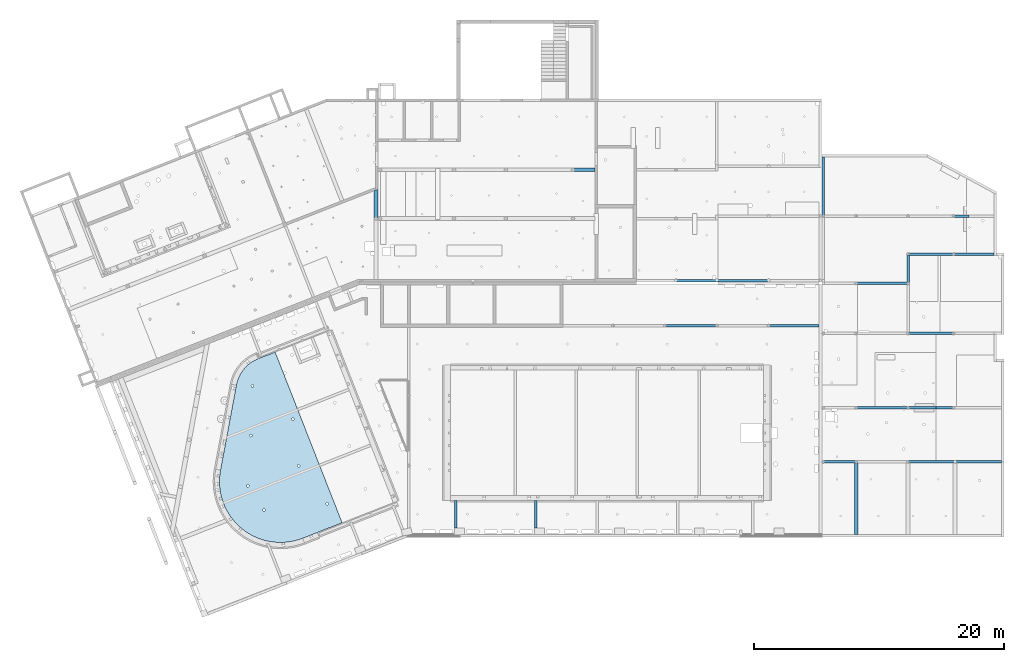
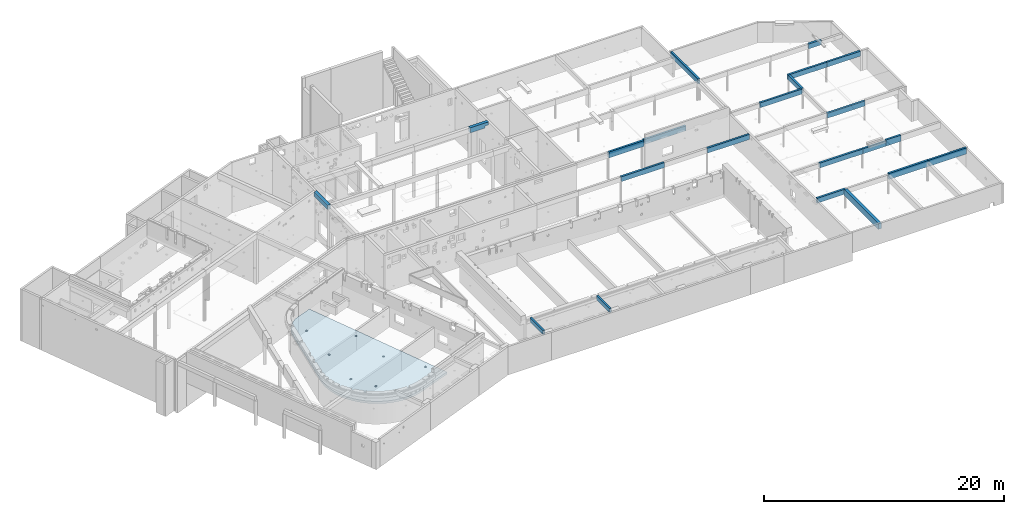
# One storey, part 6 of 28: 22 beams, 1 slab, 8 openings.
"""IFC2X3 building model written with IfcOpenShell, lengths in metres."""

from ifc_helpers import new_model, entity, si_unit, converted_unit, direction, frame, origin, origin_with_axes, place, context, subcontext, project, spatial, polyline, outline, extrude, faceted_brep, material, element, save


model = new_model("IFC2X3")

# Units and contexts
model_context = context("Model", 3, precision=1e-05, world=origin(), true_north=direction((-0.407059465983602, -0.913401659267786)))
body_context = subcontext(model_context, "Body", "Model", "MODEL_VIEW")
ifc_project = project(units=[si_unit("LENGTHUNIT", "METRE"), si_unit("AREAUNIT", "SQUARE_METRE"), si_unit("VOLUMEUNIT", "CUBIC_METRE"), si_unit("MASSUNIT", "GRAM", prefix="KILO"), converted_unit("PLANEANGLEUNIT", "DEGREE", entity("IfcPlaneAngleMeasure", 0.0174532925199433), si_unit("PLANEANGLEUNIT", "RADIAN"), dimensions=[0, 0, 0, 0, 0, 0, 0])], contexts=[model_context])

# Site, buildings, storey
site_placement = place(None, origin())
site = spatial("IfcSite", under=ifc_project, at=site_placement, Name="Site", CompositionType="ELEMENT")
building_1_placement = place(site_placement, origin())
building_1 = spatial("IfcBuilding", under=site, at=building_1_placement, Name="Site", CompositionType="COMPLEX")
building_2_placement = place(building_1_placement, origin())
building_2 = spatial("IfcBuilding", under=building_1, at=building_2_placement, Name="Bâtiments", CompositionType="ELEMENT")
storey_placement = place(building_2_placement, frame((0.0, 0.0, -5.3)))
storey = spatial("IfcBuildingStorey", under=building_2, at=storey_placement, Name="SOUS-SOL", CompositionType="ELEMENT", Elevation=-5.3)

# Beam
ifc_material_1 = material(Name="Béton")
beam_1_placement = place(storey_placement, frame((27.5627490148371, -0.168892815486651, 4.71)))
element("IfcBeam", 1, at=beam_1_placement, inside=storey, material=ifc_material_1, Name="Po 011", context=body_context, shape_type="Brep", body=[
    faceted_brep([(0.300010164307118, 2.35732778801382, 0.0), (0.299999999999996, 0.0, 0.0), (0.299999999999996, 0.0, 0.45), (0.300010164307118, 2.35732778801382, 0.45), (0.0, 6.47089122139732e-07, 0.0), (0.0, 6.47089122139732e-07, 0.45), (9.65677928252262e-06, 2.23962149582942, 0.0), (9.65677928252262e-06, 2.23962149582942, 0.45)], [[[0, 1, 2, 3]], [[1, 4, 5, 2]], [[4, 6, 7, 5]], [[6, 0, 3, 7]], [[7, 3, 2, 5]], [[0, 6, 4, 1]]], orient=[[False], [False], [False], [False], [False], [False]]),
])

# Beam, opening
ifc_material_2 = material(Name="Béton")
beam_2_placement = place(storey_placement, frame((43.4923225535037, 3.60173262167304, 4.68)))
beam_2 = element("IfcBeam", 2, at=beam_2_placement, inside=storey, material=ifc_material_2, Name="Po 015", context=body_context, shape_type="Brep", body=[
    faceted_brep([(7.27595761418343e-15, 0.300000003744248, 0.0), (1.7503231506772, 0.3, 0.0), (1.7503231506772, 0.3, 0.5), (7.27595761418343e-15, 0.300000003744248, 0.5), (1.7503231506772, 0.0, 0.0), (1.7503231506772, 0.0, 0.5), (1.96339417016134e-07, 3.74424826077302e-09, 0.0), (1.96339417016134e-07, 3.74424826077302e-09, 0.5)], [[[0, 1, 2, 3]], [[1, 4, 5, 2]], [[4, 6, 7, 5]], [[6, 0, 3, 7]], [[7, 3, 2, 5]], [[0, 6, 4, 1]]], orient=[[False], [False], [False], [False], [False], [False]]),
])
opening_1_placement = place(beam_2_placement, frame((1.40032315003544, 7.48715137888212e-10, 0.0), z_axis=(0.0, 1.0, 0.0), x_axis=(0.0, 0.0, 1.0)))
element("IfcOpeningElement", 3, at=opening_1_placement, cuts=beam_2, Name="EL-022", ObjectType="Opening", context=body_context, shape_type="SweptSolid", body=[
    extrude(outline(polyline([(0.0, 0.35), (0.2, 0.35), (0.2, 0.0), (0.0, 0.0), (0.0, 0.35)])), origin_with_axes(), (0.0, 0.0, 1.0), 0.3),
])

# Beams
ifc_material_3 = material(Name="Béton")
beam_3_placement = place(storey_placement, frame((50.8626498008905, -8.83387390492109, 4.66)))
element("IfcBeam", 4, at=beam_3_placement, inside=storey, material=ifc_material_3, Name="Po 042", context=body_context, shape_type="Brep", body=[
    faceted_brep([(7.27595761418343e-15, 0.199999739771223, 0.0), (4.15000233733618, 0.200000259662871, 0.0), (4.15000233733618, 0.200000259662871, 0.5), (7.27595761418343e-15, 0.199999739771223, 0.5), (4.15000236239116, 5.19891063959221e-07, 0.0), (4.15000236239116, 5.19891063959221e-07, 0.5), (4.69975175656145e-06, 0.0, 0.0), (4.69975175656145e-06, 0.0, 0.5)], [[[0, 1, 2, 3]], [[1, 4, 5, 2]], [[4, 6, 7, 5]], [[6, 0, 3, 7]], [[7, 3, 2, 5]], [[0, 6, 4, 1]]], orient=[[False], [False], [False], [False], [False], [False]]),
])
ifc_material_4 = material(Name="Béton")
beam_4_placement = place(storey_placement, frame((59.1626461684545, -8.83393478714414, 4.66)))
element("IfcBeam", 5, at=beam_4_placement, inside=storey, material=ifc_material_4, Name="Po 044", context=body_context, shape_type="Brep", body=[
    faceted_brep([(0.0, 6.08822334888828e-05, 0.0), (5.96977220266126e-06, 0.200060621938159, 0.0), (5.96977220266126e-06, 0.200060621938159, 0.5), (0.0, 6.08822334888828e-05, 0.5), (4.05070967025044, 0.199999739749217, 0.0), (4.05070967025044, 0.199999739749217, 0.5), (4.05070666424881, 1.81898940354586e-15, 0.0), (4.05070666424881, 1.81898940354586e-15, 0.5)], [[[0, 1, 2, 3]], [[1, 4, 5, 2]], [[4, 6, 7, 5]], [[6, 0, 3, 7]], [[3, 2, 5, 7]], [[0, 6, 4, 1]]], orient=[[False], [False], [False], [False], [False], [False]]),
])
ifc_material_5 = material(Name="Béton")
beam_5_placement = place(storey_placement, frame((63.433390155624, 0.151721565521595, 4.76)))
element("IfcBeam", 6, at=beam_5_placement, inside=storey, material=ifc_material_5, Name="Po 060", context=body_context, shape_type="Brep", body=[
    faceted_brep([(0.0, 0.0, 0.0), (0.0, 4.62209675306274, 0.0), (0.0, 4.62209675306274, 0.5), (0.0, 0.0, 0.5), (0.19999996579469, 4.62209675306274, 0.0), (0.19999996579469, 4.62209675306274, 0.5), (0.19999996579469, 5.10935807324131e-06, 0.0), (0.19999996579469, 5.10935807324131e-06, 0.5)], [[[0, 1, 2, 3]], [[1, 4, 5, 2]], [[4, 6, 7, 5]], [[6, 0, 3, 7]], [[7, 3, 2, 5]], [[0, 6, 4, 1]]], orient=[[False], [False], [False], [False], [False], [False]]),
])
ifc_material_6 = material(Name="Béton")
beam_6_placement = place(storey_placement, frame((73.9828281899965, -3.0954855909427, 4.76)))
element("IfcBeam", 7, at=beam_6_placement, inside=storey, material=ifc_material_6, Name="Po 033", context=body_context, shape_type="Brep", body=[
    faceted_brep([(0.0, 0.199999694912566, 0.0), (3.23042241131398, 0.200143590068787, 0.0), (3.23042241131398, 0.200143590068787, 0.5), (0.0, 0.199999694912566, 0.5), (3.23043132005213, 0.00014389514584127, 0.0), (3.23043132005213, 0.00014389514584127, 0.5), (9.1417789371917e-06, 0.0, 0.0), (9.1417789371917e-06, 0.0, 0.5)], [[[0, 1, 2, 3]], [[1, 4, 5, 2]], [[4, 6, 7, 5]], [[6, 0, 3, 7]], [[7, 3, 2, 5]], [[0, 6, 4, 1]]], orient=[[False], [False], [False], [False], [False], [False]]),
])
ifc_material_7 = material(Name="Béton")
beam_7_placement = place(storey_placement, frame((63.4333864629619, -19.7400776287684, 4.68)))
element("IfcBeam", 8, at=beam_7_placement, inside=storey, material=ifc_material_7, Name="Po 053", context=body_context, shape_type="Brep", body=[
    faceted_brep([(4.40334252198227e-06, 0.200060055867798, 0.0), (2.73956097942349, 0.199999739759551, 0.0), (2.73956097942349, 0.199999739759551, 0.5), (4.40334252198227e-06, 0.200060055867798, 0.5), (2.73955836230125, 0.199965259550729, 0.0), (2.73955836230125, 0.199965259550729, 0.5), (2.73955657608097, 0.0, 0.0), (2.73955657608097, 0.0, 0.5), (0.0, 6.0316108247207e-05, 0.0), (0.0, 6.0316108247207e-05, 0.5)], [[[0, 1, 2, 3]], [[1, 4, 5, 2]], [[4, 6, 7, 5]], [[6, 8, 9, 7]], [[8, 0, 3, 9]], [[9, 3, 2, 5, 7]], [[0, 8, 6, 4, 1]]], orient=[[False], [False], [False], [False], [False], [False], [False]]),
])
ifc_material_8 = material(Name="Béton")
beam_8_placement = place(storey_placement, frame((66.0229478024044, -25.4449283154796, 4.58)))
element("IfcBeam", 9, at=beam_8_placement, inside=storey, material=ifc_material_8, Name="Po 061", context=body_context, shape_type="Brep", body=[
    faceted_brep([(0.300000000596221, 5.7048472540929, 0.0), (0.30025536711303, 0.0, 0.0), (0.30025536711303, 0.0, 0.6), (0.300000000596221, 5.7048472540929, 0.6), (0.000255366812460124, 4.25134203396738e-11, 0.0), (0.000255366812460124, 4.25134203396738e-11, 0.6), (0.0, 5.70485385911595, 0.0), (0.0, 5.70485385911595, 0.6)], [[[0, 1, 2, 3]], [[1, 4, 5, 2]], [[4, 6, 7, 5]], [[6, 0, 3, 7]], [[7, 3, 2, 5]], [[0, 6, 4, 1]]], orient=[[False], [False], [False], [False], [False], [False]]),
])
ifc_material_9 = material(Name="Béton")
beam_9_placement = place(storey_placement, frame((51.7387053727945, -5.21894494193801, 4.58)))
element("IfcBeam", 10, at=beam_9_placement, inside=storey, material=ifc_material_9, Name="Po 035", context=body_context, shape_type="Brep", body=[
    faceted_brep([(0.0, 0.200000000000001, 0.0), (3.3737714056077, 0.200000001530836, 0.0), (3.3737714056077, 0.200000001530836, 0.6), (0.0, 0.200000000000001, 0.6), (3.37377121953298, 1.53083510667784e-09, 0.0), (3.37377121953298, 1.53083510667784e-09, 0.6), (9.07457433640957e-11, 9.09494701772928e-16, 0.0), (9.07457433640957e-11, 9.09494701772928e-16, 0.6)], [[[0, 1, 2, 3]], [[1, 4, 5, 2]], [[4, 6, 7, 5]], [[6, 0, 3, 7]], [[7, 3, 2, 5]], [[0, 6, 4, 1]]], orient=[[False], [False], [False], [False], [False], [False]]),
])
ifc_material_10 = material(Name="Béton")
beam_10_placement = place(storey_placement, frame((55.1124812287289, -5.21895147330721, 4.76)))
element("IfcBeam", 11, at=beam_10_placement, inside=storey, material=ifc_material_10, Name="Po 036", context=body_context, shape_type="Brep", body=[
    faceted_brep([(0.0, 0.200000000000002, 0.0), (4.05007155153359, 0.200000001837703, 0.0), (4.05007155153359, 0.200000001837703, 0.5), (0.0, 0.200000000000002, 0.5), (4.05007155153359, 1.83770316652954e-09, 0.0), (4.05007155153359, 1.83770316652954e-09, 0.5), (1.74166947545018e-07, 0.0, 0.0), (1.74166947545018e-07, 0.0, 0.5)], [[[0, 1, 2, 3]], [[1, 4, 5, 2]], [[4, 6, 7, 5]], [[6, 0, 3, 7]], [[7, 3, 2, 5]], [[0, 6, 4, 1]]], orient=[[False], [False], [False], [False], [False], [False]]),
])
ifc_material_11 = material(Name="Béton")
beam_11_placement = place(storey_placement, frame((73.9821512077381, -0.0482721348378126, 4.76)))
element("IfcBeam", 12, at=beam_11_placement, inside=storey, material=ifc_material_11, Name="Po 031", context=body_context, shape_type="Brep", body=[
    faceted_brep([(1.88890553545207e-07, 0.200001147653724, 0.0), (1.21515206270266, 0.200000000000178, 0.0), (1.21515206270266, 0.200000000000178, 0.5), (1.88890553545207e-07, 0.200001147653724, 0.5), (1.21515206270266, 0.0, 0.0), (1.21515206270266, 0.0, 0.5), (0.0, 1.14765372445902e-06, 0.0), (0.0, 1.14765372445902e-06, 0.5)], [[[0, 1, 2, 3]], [[1, 4, 5, 2]], [[4, 6, 7, 5]], [[6, 0, 3, 7]], [[7, 3, 2, 5]], [[0, 6, 4, 1]]], orient=[[False], [False], [False], [False], [False], [False]]),
])
ifc_material_12 = material(Name="Béton")
beam_12_placement = place(storey_placement, frame((70.2328299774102, -3.09566068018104, 4.76)))
element("IfcBeam", 13, at=beam_12_placement, inside=storey, material=ifc_material_12, Name="Po 032", context=body_context, shape_type="Brep", body=[
    faceted_brep([(3.75000735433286, 0.000175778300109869, 0.0), (2.59817595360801e-06, 0.0, 0.0), (2.59817595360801e-06, 0.0, 0.5), (3.75000735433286, 0.000175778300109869, 0.5), (0.0, 0.199999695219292, 0.0), (0.0, 0.199999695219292, 0.5), (3.74999797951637, 0.200175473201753, 0.0), (3.74999797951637, 0.200175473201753, 0.5)], [[[0, 1, 2, 3]], [[1, 4, 5, 2]], [[4, 6, 7, 5]], [[6, 0, 3, 7]], [[7, 3, 2, 5]], [[0, 6, 4, 1]]], orient=[[False], [False], [False], [False], [False], [False]]),
])
ifc_material_13 = material(Name="Béton")
beam_13_placement = place(storey_placement, frame((66.1729469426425, -5.43911654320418, 4.76)))
element("IfcBeam", 14, at=beam_13_placement, inside=storey, material=ifc_material_13, Name="Po 039", context=body_context, shape_type="Brep", body=[
    faceted_brep([(4.05991477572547, 0.100133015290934, 0.0), (4.06000139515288, 0.100133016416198, 0.0), (4.06000139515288, 0.100133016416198, 0.5), (4.05991477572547, 0.100133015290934, 0.5), (4.05999845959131, 0.0, 0.0), (4.05999845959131, 0.0, 0.5), (-1.45519152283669e-14, 8.93879355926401e-05, 0.0), (-1.45519152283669e-14, 8.93879355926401e-05, 0.5), (4.40334250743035e-06, 0.200089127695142, 0.0), (4.40334250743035e-06, 0.200089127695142, 0.5), (4.05991347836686, 0.199999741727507, 0.0), (4.05991347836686, 0.199999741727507, 0.5)], [[[0, 1, 2, 3]], [[1, 4, 5, 2]], [[4, 6, 7, 5]], [[6, 8, 9, 7]], [[8, 10, 11, 9]], [[10, 0, 3, 11]], [[11, 3, 2, 5, 7, 9]], [[0, 10, 8, 6, 4, 1]]], orient=[[False], [False], [False], [False], [False], [False], [False], [False]]),
])
ifc_material_14 = material(Name="Béton")
beam_14_placement = place(storey_placement, frame((70.2328325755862, -5.33898352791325, 4.76)))
element("IfcBeam", 15, at=beam_14_placement, inside=storey, material=ifc_material_14, Name="Po 064", context=body_context, shape_type="Brep", body=[
    faceted_brep([(2.91427817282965e-05, 0.0, 0.0), (0.0, 2.2433228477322, 0.0), (0.0, 2.2433228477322, 0.5), (2.91427817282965e-05, 0.0, 0.5), (0.19999969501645, 2.24333222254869, 0.0), (0.19999969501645, 2.24333222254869, 0.5), (0.200028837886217, 2.59817594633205e-06, 0.0), (0.200028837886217, 2.59817594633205e-06, 0.5)], [[[0, 1, 2, 3]], [[1, 4, 5, 2]], [[4, 6, 7, 5]], [[6, 0, 3, 7]], [[7, 3, 2, 5]], [[0, 6, 4, 1]]], orient=[[False], [False], [False], [False], [False], [False]]),
])
ifc_material_15 = material(Name="Béton")
beam_15_placement = place(storey_placement, frame((70.3328547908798, -15.4132765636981, 4.68)))
element("IfcBeam", 16, at=beam_15_placement, inside=storey, material=ifc_material_15, Name="Po 051", context=body_context, shape_type="Brep", body=[
    faceted_brep([(0.0, 0.199999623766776, 0.0), (2.2201497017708, 0.200103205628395, 0.0), (2.2201497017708, 0.200103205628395, 0.5), (0.0, 0.199999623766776, 0.5), (2.22014931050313, 0.000103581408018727, 0.0), (2.22014931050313, 0.000103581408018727, 0.5), (9.33105245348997e-06, 0.0, 0.0), (9.33105245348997e-06, 0.0, 0.5)], [[[0, 1, 2, 3]], [[1, 4, 5, 2]], [[4, 6, 7, 5]], [[6, 0, 3, 7]], [[7, 3, 2, 5]], [[0, 6, 4, 1]]], orient=[[False], [False], [False], [False], [False], [False]]),
])
ifc_material_16 = material(Name="Béton")
beam_16_placement = place(storey_placement, frame((72.5530041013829, -15.4131729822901, 4.68)))
element("IfcBeam", 17, at=beam_16_placement, inside=storey, material=ifc_material_16, Name="Po 051", context=body_context, shape_type="Brep", body=[
    faceted_brep([(3.91267676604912e-07, 0.199999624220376, 0.0), (1.43984958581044, 0.200066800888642, 0.0), (1.43984958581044, 0.200066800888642, 0.62), (3.91267676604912e-07, 0.199999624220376, 0.62), (1.43985882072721, 6.71771173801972e-05, 0.0), (1.43985882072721, 6.71771173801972e-05, 0.62), (0.0, 0.0, 0.0), (0.0, 0.0, 0.62)], [[[0, 1, 2, 3]], [[1, 4, 5, 2]], [[4, 6, 7, 5]], [[6, 0, 3, 7]], [[7, 3, 2, 5]], [[0, 6, 4, 1]]], orient=[[False], [False], [False], [False], [False], [False]]),
])
ifc_material_17 = material(Name="Béton")
beam_17_placement = place(storey_placement, frame((70.3327182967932, -9.45745951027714, 4.68)))
element("IfcBeam", 18, at=beam_17_placement, inside=storey, material=ifc_material_17, Name="Po 047", context=body_context, shape_type="Brep", body=[
    faceted_brep([(0.0, 0.199999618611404, 0.0), (0.0, 0.199999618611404, 0.5), (0.000114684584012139, 0.0998971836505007, 0.5), (0.000114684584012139, 0.0998971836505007, 0.0), (3.66011863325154, 0.000170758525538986, 0.0), (3.66011863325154, 0.000170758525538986, 0.5), (3.66010939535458, 0.200170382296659, 0.5), (3.66010939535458, 0.200170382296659, 0.0), (0.0001198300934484, 0.0, 0.0), (0.0001198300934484, 0.0, 0.5)], [[[0, 1, 2, 3]], [[4, 5, 6, 7]], [[8, 9, 5, 4]], [[2, 9, 8, 3]], [[7, 6, 1, 0]], [[6, 5, 9, 2, 1]], [[7, 0, 3, 8, 4]]], orient=[[False], [False], [False], [False], [False], [False], [False]]),
])
ifc_material_18 = material(Name="Béton")
beam_18_placement = place(storey_placement, frame((34.008447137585, -24.9449080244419, 4.76)))
element("IfcBeam", 19, at=beam_18_placement, inside=storey, material=ifc_material_18, Name="Po 079", context=body_context, shape_type="Brep", body=[
    faceted_brep([(-7.27595761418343e-15, 4.67469757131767e-06, 0.0), (1.45519152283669e-14, 2.19560233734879, 0.0), (1.45519152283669e-14, 2.19560233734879, 0.4), (-7.27595761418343e-15, 4.67469757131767e-06, 0.4), (0.199999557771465, 2.19560233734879, 0.0), (0.199999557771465, 2.19560233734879, 0.4), (0.199999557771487, 0.0, 0.0), (0.199999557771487, 0.0, 0.4)], [[[0, 1, 2, 3]], [[1, 4, 5, 2]], [[4, 6, 7, 5]], [[6, 0, 3, 7]], [[7, 3, 2, 5]], [[0, 6, 4, 1]]], orient=[[False], [False], [False], [False], [False], [False]]),
])
ifc_material_19 = material(Name="Béton")
beam_19_placement = place(storey_placement, frame((40.4072615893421, -24.9449080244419, 4.76)))
element("IfcBeam", 20, at=beam_19_placement, inside=storey, material=ifc_material_19, Name="Po 080", context=body_context, shape_type="Brep", body=[
    faceted_brep([(0.0, 4.67469757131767e-06, 0.0), (2.18278728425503e-14, 2.19560233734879, 0.0), (2.18278728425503e-14, 2.19560233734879, 0.4), (0.0, 4.67469757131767e-06, 0.4), (0.199999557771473, 2.19560233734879, 0.0), (0.199999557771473, 2.19560233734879, 0.4), (0.199999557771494, 0.0, 0.0), (0.199999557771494, 0.0, 0.4)], [[[0, 1, 2, 3]], [[1, 4, 5, 2]], [[4, 6, 7, 5]], [[6, 0, 3, 7]], [[7, 3, 2, 5]], [[0, 6, 4, 1]]], orient=[[False], [False], [False], [False], [False], [False]]),
])
ifc_material_20 = material(Name="Béton")
beam_20_placement = place(storey_placement, frame((70.3328582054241, -19.7400216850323, 4.68)))
element("IfcBeam", 21, at=beam_20_placement, inside=storey, material=ifc_material_20, Name="Po 055", context=body_context, shape_type="Brep", body=[
    faceted_brep([(9.82218771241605e-08, 0.199943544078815, 0.0), (0.0, 0.199999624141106, 0.0), (0.0, 0.199999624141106, 0.62), (9.82218771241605e-08, 0.199943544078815, 0.62), (3.76001018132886, 0.200018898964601, 0.0), (3.76001018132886, 0.200018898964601, 0.62), (3.76001018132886, 5.82307793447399e-05, 0.0), (3.76001018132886, 5.82307793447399e-05, 0.62), (3.86001165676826, 5.82307793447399e-05, 0.0), (3.86001165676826, 5.82307793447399e-05, 0.62), (3.86001165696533, 1.97874527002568e-05, 0.0), (3.86001165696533, 1.97874527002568e-05, 0.62), (1.02525186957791e-06, 0.0, 0.0), (1.02525186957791e-06, 0.0, 0.62)], [[[0, 1, 2, 3]], [[1, 4, 5, 2]], [[4, 6, 7, 5]], [[6, 8, 9, 7]], [[8, 10, 11, 9]], [[10, 12, 13, 11]], [[12, 0, 3, 13]], [[13, 3, 2, 5, 7, 9, 11]], [[0, 12, 10, 8, 6, 4, 1]]], orient=[[False], [False], [False], [False], [False], [False], [False], [False], [False]]),
])
ifc_material_21 = material(Name="Béton")
beam_21_placement = place(storey_placement, frame((74.0928683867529, -19.739963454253, 4.68)))
element("IfcBeam", 22, at=beam_21_placement, inside=storey, material=ifc_material_21, Name="Po 056", context=body_context, shape_type="Brep", body=[
    faceted_brep([(0.0, 0.199999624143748, 0.0), (3.72023596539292, 0.199998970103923, 0.0), (3.72023596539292, 0.199998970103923, 0.62), (0.0, 0.199999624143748, 0.62), (3.72023596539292, 0.0, 0.0), (3.72023596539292, 0.0, 0.62), (0.0, 1.45519152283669e-14, 0.0), (0.0, 1.45519152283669e-14, 0.62)], [[[0, 1, 2, 3]], [[1, 4, 5, 2]], [[4, 6, 7, 5]], [[6, 0, 3, 7]], [[7, 3, 2, 5]], [[0, 6, 4, 1]]], orient=[[False], [False], [False], [False], [False], [False]]),
])
ifc_material_22 = material(Name="Béton")
beam_22_placement = place(storey_placement, frame((66.1729477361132, -15.4134071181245, 4.68)))
element("IfcBeam", 23, at=beam_22_placement, inside=storey, material=ifc_material_22, Name="Po 050", context=body_context, shape_type="Brep", body=[
    faceted_brep([(4.40334269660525e-06, 0.200091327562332, 0.0), (4.15990706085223, 0.199999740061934, 0.0), (4.15990706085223, 0.199999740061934, 0.5), (4.40334269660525e-06, 0.200091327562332, 0.5), (4.15991639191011, 0.0, 0.0), (4.15991639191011, 0.0, 0.5), (0.0, 9.15878027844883e-05, 0.0), (0.0, 9.15878027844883e-05, 0.5)], [[[0, 1, 2, 3]], [[1, 4, 5, 2]], [[4, 6, 7, 5]], [[6, 0, 3, 7]], [[7, 3, 2, 5]], [[0, 6, 4, 1]]], orient=[[False], [False], [False], [False], [False], [False]]),
])

# Slab, openings
ifc_material_23 = material(Name="Dalle_BA")
slab_placement = place(storey_placement, frame((15.1778838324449, -26.0948444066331, 3.63), z_axis=(0.0186144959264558, 0.00730346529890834, 0.99980005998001), x_axis=(0.365246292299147, -0.93091092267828, 0.0)))
slab = element("IfcSlab", 24, at=slab_placement, inside=storey, material=ifc_material_23, PredefinedType="FLOOR", context=body_context, shape_type="SweptSolid", body=[
    extrude(outline(polyline([(-7.78926342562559, 2.11623145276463), (-7.69566050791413, 2.00061897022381), (-7.59613638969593, 1.89006470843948), (-7.49096385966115, 1.78487168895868), (-7.3804311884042, 1.68532823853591), (-7.26484133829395, 1.59170719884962), (-7.144511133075, 1.50426517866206), (-7.04057194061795, 1.43675316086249), (-1.16059039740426, -2.23823297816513), (-1.16055812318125, -2.23818131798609), (-1.12478856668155, -2.26141485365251), (-0.903227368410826, -2.38935808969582), (-0.675275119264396, -2.50552804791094), (-0.441556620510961, -2.60960631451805), (-0.202712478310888, -2.70130761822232), (0.0406026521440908, -2.78038061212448), (0.287721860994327, -2.84660856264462), (0.537967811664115, -2.8998099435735), (0.790654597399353, -2.93983893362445), (1.04508962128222, -2.96658581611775), (1.30057549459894, -2.97997727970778), (1.55641194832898, -2.97997661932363), (1.81189775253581, -2.96658383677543), (2.06633263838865, -2.93983564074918), (2.31901921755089, -2.89980534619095), (2.56926489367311, -2.84660267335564), (2.81638376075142, -2.78037344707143), (3.05969848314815, -2.70129919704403), (3.29854215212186, -2.60959666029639), (3.53226011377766, -2.50551718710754), (3.76021176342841, -2.38934605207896), (3.98177230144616, -2.26140167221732), (4.19633444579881, -2.12203473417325), (4.40331009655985, -1.97162723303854), (4.60213194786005, -1.81059142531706), (4.79225504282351, -1.6393686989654), (4.97315826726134, -1.45842836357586), (5.14434577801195, -1.26826636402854), (5.30534836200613, -1.06940392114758), (5.45572472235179, -0.862386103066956), (5.59506268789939, -0.647780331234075), (5.72298034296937, -0.426174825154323), (5.83912707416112, -0.198176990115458), (5.94318453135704, 0.0355882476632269), (6.03486750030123, 0.27448015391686), (6.11392468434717, 0.51784394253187), (6.18013939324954, 0.765012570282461), (6.23333013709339, 1.01530856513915), (6.27335112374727, 1.26804588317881), (6.30009265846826, 1.52253178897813), (6.31348144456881, 1.77806875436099), (6.31348111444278, 1.90601256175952), (6.31420273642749, 1.90601256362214), (6.31420598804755, 3.1662120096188), (6.3142532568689, 3.166212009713), (6.31424775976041, 5.2966740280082), (-8.37537493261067, 5.29667390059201), (-8.37537185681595, 3.77166801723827), (-8.36758723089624, 3.62310613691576), (-8.35203970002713, 3.47515535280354), (-8.32877187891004, 3.32822118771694), (-8.29784754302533, 3.1827063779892), (-8.25935145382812, 3.03900976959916), (-8.2133891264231, 2.8975252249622), (-8.16008654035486, 2.75864054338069), (-8.0995897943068, 2.62273639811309), (-8.03206470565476, 2.49018529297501), (-7.95769635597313, 2.3613505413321), (-7.8766885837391, 2.23658527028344), (-7.78926342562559, 2.11623145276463)])), frame((-4.19221162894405, 4.42415741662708, 0.194416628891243), z_axis=(8.67361737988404e-19, 3.46944695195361e-18, 1.0), x_axis=(1.0, -5.55111512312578e-17, 8.67361737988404e-19)), (0.0, -0.0199960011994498, 0.99980005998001), 0.23),
])
opening_2_placement = place(slab_placement, frame((-10.6566434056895, 6.90793067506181, 0.189828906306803)))
element("IfcOpeningElement", 25, at=opening_2_placement, cuts=slab, Name="Trémie dans dalle", ObjectType="Opening", context=body_context, shape_type="SweptSolid", body=[
    extrude(outline(polyline([(-0.0869457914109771, 0.0510674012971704), (-0.0984679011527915, 0.0216948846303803), (-0.100351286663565, -0.0098012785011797), (-0.0924115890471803, -0.0403380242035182), (-0.0754260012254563, -0.0669262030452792), (-0.051057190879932, -0.0869631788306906), (-0.0216905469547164, -0.0984875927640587), (0.00979931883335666, -0.100371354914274), (0.0403299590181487, -0.0924300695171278), (0.0669128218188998, -0.0754410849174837), (0.0869457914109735, -0.0510674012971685), (0.0984679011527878, -0.0216948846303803), (0.100351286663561, 0.0098012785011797), (0.0924115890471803, 0.0403380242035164), (0.0754260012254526, 0.0669262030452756), (0.0510571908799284, 0.086963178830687), (0.0216905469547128, 0.0984875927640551), (-0.0097993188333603, 0.100371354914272), (-0.0403299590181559, 0.0924300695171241), (-0.0669128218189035, 0.0754410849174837), (-0.0869457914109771, 0.0510674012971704)])), frame((-0.0563329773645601, 0.129014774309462, 0.00458772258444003), z_axis=(9.36750677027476e-17, -1.97758476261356e-16, 1.0), x_axis=(1.0, -4.66293670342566e-15, -9.28077059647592e-17)), (0.0, -0.0199960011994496, 0.99980005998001), 0.23),
])
opening_3_placement = place(slab_placement, frame((-6.99665166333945, 8.94001918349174, 0.189828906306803)))
element("IfcOpeningElement", 26, at=opening_3_placement, cuts=slab, Name="Trémie dans dalle", ObjectType="Opening", context=body_context, shape_type="SweptSolid", body=[
    extrude(outline(polyline([(-0.0869457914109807, 0.0510674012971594), (-0.0984679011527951, 0.0216948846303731), (-0.100351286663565, -0.00980127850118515), (-0.0924115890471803, -0.0403380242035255), (-0.0754260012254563, -0.0669262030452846), (-0.051057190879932, -0.0869631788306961), (-0.0216905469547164, -0.0984875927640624), (0.00979931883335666, -0.100371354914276), (0.0403299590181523, -0.0924300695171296), (0.0669128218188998, -0.0754410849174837), (0.0869457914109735, -0.0510674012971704), (0.0984679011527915, -0.0216948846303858), (0.100351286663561, 0.0098012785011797), (0.0924115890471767, 0.0403380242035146), (0.0754260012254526, 0.0669262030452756), (0.0510571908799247, 0.0869631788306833), (0.0216905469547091, 0.0984875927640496), (-0.00979931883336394, 0.100371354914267), (-0.0403299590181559, 0.0924300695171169), (-0.0669128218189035, 0.0754410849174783), (-0.0869457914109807, 0.0510674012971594)])), frame((-0.0563329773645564, 0.129014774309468, 0.00458772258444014), z_axis=(6.76542155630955e-16, 2.32452945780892e-16, 1.0), x_axis=(1.0, -3.3806291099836e-14, -6.75674793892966e-16)), (0.0, -0.01999600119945, 0.99980005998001), 0.23),
])
opening_4_placement = place(slab_placement, frame((-6.99664782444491, 5.33333186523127, 0.189828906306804)))
element("IfcOpeningElement", 27, at=opening_4_placement, cuts=slab, Name="Trémie dans dalle", ObjectType="Opening", context=body_context, shape_type="SweptSolid", body=[
    extrude(outline(polyline([(-0.0869457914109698, 0.0510674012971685), (-0.0984679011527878, 0.0216948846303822), (-0.100351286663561, -0.00980127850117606), (-0.0924115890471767, -0.0403380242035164), (-0.0754260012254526, -0.0669262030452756), (-0.0510571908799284, -0.0869631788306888), (-0.0216905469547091, -0.0984875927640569), (0.00979931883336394, -0.100371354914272), (0.0403299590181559, -0.092430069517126), (0.0669128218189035, -0.0754410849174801), (0.0869457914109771, -0.0510674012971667), (0.0984679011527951, -0.0216948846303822), (0.100351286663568, 0.0098012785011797), (0.0924115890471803, 0.0403380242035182), (0.0754260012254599, 0.0669262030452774), (0.0510571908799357, 0.0869631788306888), (0.02169054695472, 0.0984875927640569), (-0.00979931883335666, 0.100371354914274), (-0.0403299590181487, 0.092430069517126), (-0.0669128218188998, 0.0754410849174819), (-0.0869457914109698, 0.0510674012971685)])), frame((-0.0563329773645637, 0.12901477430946, 0.00458772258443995), z_axis=(1.91686944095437e-16, -2.32452945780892e-16, 1.0), x_axis=(1.0, -9.54791801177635e-15, -1.90819582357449e-16)), (0.0, -0.0199960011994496, 0.99980005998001), 0.23),
])
opening_5_placement = place(slab_placement, frame((-3.33664176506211, 3.64796330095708, 0.189828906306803)))
element("IfcOpeningElement", 28, at=opening_5_placement, cuts=slab, Name="Trémie dans dalle", ObjectType="Opening", context=body_context, shape_type="SweptSolid", body=[
    extrude(outline(polyline([(-0.0869457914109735, 0.0510674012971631), (-0.0984679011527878, 0.0216948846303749), (-0.100351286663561, -0.00980127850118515), (-0.0924115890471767, -0.0403380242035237), (-0.0754260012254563, -0.066926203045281), (-0.0510571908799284, -0.0869631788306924), (-0.0216905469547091, -0.0984875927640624), (0.0097993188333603, -0.100371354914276), (0.0403299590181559, -0.0924300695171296), (0.0669128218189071, -0.0754410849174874), (0.0869457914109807, -0.0510674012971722), (0.0984679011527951, -0.0216948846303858), (0.100351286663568, 0.00980127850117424), (0.092411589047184, 0.0403380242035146), (0.0754260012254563, 0.0669262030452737), (0.051057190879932, 0.0869631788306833), (0.0216905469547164, 0.0984875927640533), (-0.0097993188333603, 0.100371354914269), (-0.0403299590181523, 0.0924300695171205), (-0.0669128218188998, 0.0754410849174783), (-0.0869457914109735, 0.0510674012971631)])), frame((-0.0563329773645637, 0.129014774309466, 0.00458772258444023), z_axis=(3.79904441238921e-16, -2.60208521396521e-16, 1.0), x_axis=(1.0, -1.89848137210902e-14, -3.79037079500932e-16)), (0.0, -0.0199960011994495, 0.99980005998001), 0.23),
])
opening_6_placement = place(slab_placement, frame((-3.33665176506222, 8.01383175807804, 0.189828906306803)))
element("IfcOpeningElement", 29, at=opening_6_placement, cuts=slab, Name="Trémie dans dalle", ObjectType="Opening", context=body_context, shape_type="SweptSolid", body=[
    extrude(outline(polyline([(-0.0869457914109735, 0.0510674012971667), (-0.0984679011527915, 0.0216948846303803), (-0.100351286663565, -0.0098012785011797), (-0.0924115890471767, -0.0403380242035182), (-0.0754260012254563, -0.0669262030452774), (-0.051057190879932, -0.0869631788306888), (-0.0216905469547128, -0.0984875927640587), (0.0097993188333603, -0.100371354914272), (0.0403299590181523, -0.092430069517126), (0.0669128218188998, -0.0754410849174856), (0.0869457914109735, -0.0510674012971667), (0.0984679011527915, -0.0216948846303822), (0.100351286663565, 0.00980127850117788), (0.0924115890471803, 0.0403380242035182), (0.0754260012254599, 0.0669262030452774), (0.051057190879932, 0.086963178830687), (0.0216905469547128, 0.0984875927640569), (-0.00979931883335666, 0.100371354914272), (-0.0403299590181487, 0.0924300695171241), (-0.0669128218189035, 0.0754410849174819), (-0.0869457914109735, 0.0510674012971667)])), frame((-0.0563329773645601, 0.12901477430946, 0.00458772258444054), z_axis=(2.0122792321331e-16, 3.12250225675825e-16, 1.0), x_axis=(1.0, -1.01030295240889e-14, -2.0122792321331e-16)), (0.0, -0.0199960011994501, 0.99980005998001), 0.23),
])
opening_7_placement = place(slab_placement, frame((0.325349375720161, 9.04331598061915, 0.189828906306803)))
element("IfcOpeningElement", 30, at=opening_7_placement, cuts=slab, Name="Trémie dans dalle", ObjectType="Opening", context=body_context, shape_type="SweptSolid", body=[
    extrude(outline(polyline([(-0.0869457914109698, 0.0510674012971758), (-0.0984679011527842, 0.0216948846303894), (-0.100351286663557, -0.00980127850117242), (-0.092411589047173, -0.0403380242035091), (-0.0754260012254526, -0.0669262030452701), (-0.0510571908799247, -0.0869631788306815), (-0.0216905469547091, -0.0984875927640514), (0.00979931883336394, -0.100371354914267), (0.0403299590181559, -0.0924300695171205), (0.0669128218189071, -0.0754410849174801), (0.0869457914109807, -0.0510674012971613), (0.0984679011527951, -0.0216948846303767), (0.100351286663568, 0.00980127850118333), (0.092411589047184, 0.0403380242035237), (0.0754260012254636, 0.0669262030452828), (0.0510571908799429, 0.0869631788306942), (0.0216905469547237, 0.0984875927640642), (-0.00979931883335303, 0.100371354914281), (-0.040329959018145, 0.0924300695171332), (-0.0669128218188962, 0.075441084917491), (-0.0869457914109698, 0.0510674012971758)])), frame((-0.0563329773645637, 0.129014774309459, 0.00458772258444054), z_axis=(-3.26995375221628e-16, 1.49186218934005e-16, 1.0), x_axis=(1.0, 1.63202784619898e-14, 3.27862736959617e-16)), (0.0, -0.01999600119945, 0.99980005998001), 0.23),
])
opening_8_placement = place(slab_placement, frame((-1.06663894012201, 4.15234275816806, 0.189828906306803)))
element("IfcOpeningElement", 31, at=opening_8_placement, cuts=slab, Name="Trémie dans dalle", ObjectType="Opening", context=body_context, shape_type="SweptSolid", body=[
    extrude(outline(polyline([(-0.0869457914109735, 0.0510674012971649), (-0.0984679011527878, 0.0216948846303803), (-0.100351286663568, -0.0098012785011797), (-0.0924115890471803, -0.04033802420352), (-0.0754260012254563, -0.0669262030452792), (-0.051057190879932, -0.0869631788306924), (-0.0216905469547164, -0.0984875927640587), (0.0097993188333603, -0.100371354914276), (0.0403299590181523, -0.0924300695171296), (0.0669128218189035, -0.0754410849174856), (0.0869457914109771, -0.0510674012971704), (0.0984679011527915, -0.021694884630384), (0.100351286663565, 0.00980127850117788), (0.0924115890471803, 0.0403380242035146), (0.0754260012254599, 0.0669262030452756), (0.0510571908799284, 0.086963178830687), (0.0216905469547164, 0.0984875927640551), (-0.00979931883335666, 0.100371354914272), (-0.0403299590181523, 0.0924300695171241), (-0.0669128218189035, 0.0754410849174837), (-0.0869457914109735, 0.0510674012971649)])), frame((-0.0563329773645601, 0.129014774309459, 0.0045877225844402), z_axis=(-2.42861286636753e-17, 2.8796409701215e-16, 1.0), x_axis=(1.0, 1.16573417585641e-15, 2.51534904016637e-17)), (0.0, -0.0199960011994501, 0.99980005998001), 0.23),
])

save(model, "model.ifc")
